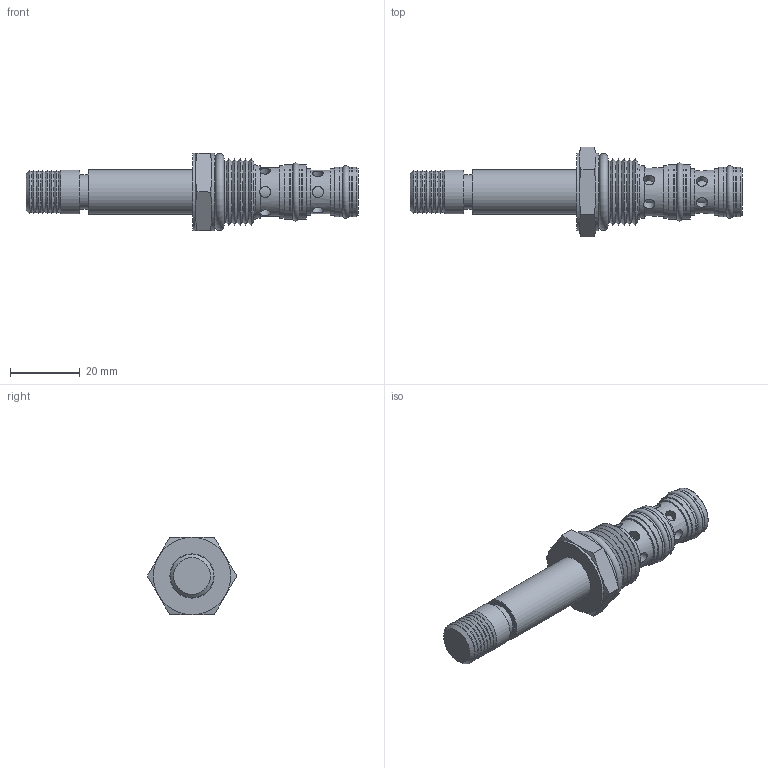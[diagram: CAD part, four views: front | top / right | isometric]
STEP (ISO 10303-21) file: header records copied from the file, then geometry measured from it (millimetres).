
FILE_DESCRIPTION((''),'2;1');
FILE_NAME('Q:\Delta CADD Insertion Codes\3D Solid models\Solenoid Valves\STEP\PPS3B00.stp','2013-03-27T14:41:14',('Dan'),(''),'Autodesk Inventor 2012','Autodesk Inventor 2012','');
FILE_SCHEMA(('AUTOMOTIVE_DESIGN { 1 0 10303 214 1 1 1 1 }'));
Length unit declared in the file: inch
Products named in the file (9): PPS3A00; PPS3A00-3D Full1; PPS3A00-3D Full2; PPS3A00-3D Full3; PPS3A00-3D Full4; PPS3A00-3D Full5; PPS3A00-3D Full6; PPS3A00-3D Full7; PPS3A00-3D Full8
Assembly tree (8 placements, depth 2):
  PPS3A00
    PPS3A00-3D Full1
    PPS3A00-3D Full2
    PPS3A00-3D Full3
    PPS3A00-3D Full4
    PPS3A00-3D Full5
    PPS3A00-3D Full6
    PPS3A00-3D Full7
    PPS3A00-3D Full8
Bounding box: 95.31 x 25.66 x 22.23 mm (x, y, z)
Volume: 15647 mm3; surface area: 8079.5 mm2
Topology: 8 solids, 8 shells, 140 faces, 312 edges, 206 vertices
Faces by surface type: cylinder 53, plane 41, cone 41, torus 5
Full cylindrical faces by diameter (mm): 3.175 x12, 7.948 x1, 9.779 x1, 10.998 x1, 11.455 x1, 11.506 x2, 12.421 x1, 12.548 x1, 12.675 x1, 13.056 x1, 13.106 x2, 13.437 x2, 14.021 x1, 14.199 x4, 15.037 x2, 15.799 x5, 16.751 x1, 22.225 x2
Entity records: 4536 total; most frequent: CARTESIAN_POINT 1526, DIRECTION 564, ORIENTED_EDGE 472, AXIS2_PLACEMENT_3D 273, EDGE_LOOP 245, EDGE_CURVE 236, VERTEX_POINT 203, FACE_OUTER_BOUND 140
